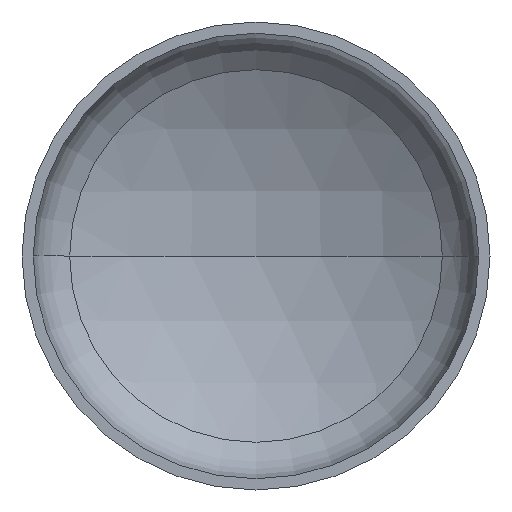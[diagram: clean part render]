
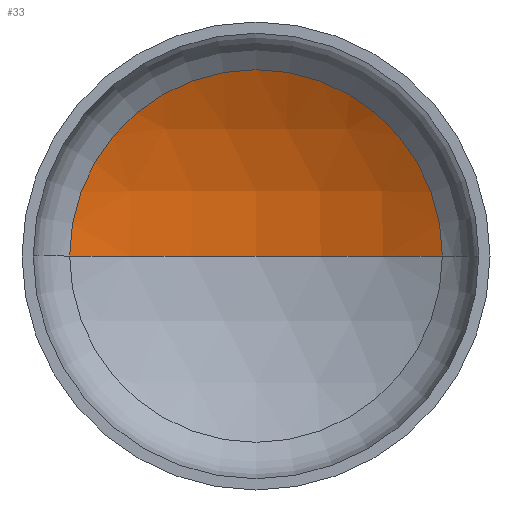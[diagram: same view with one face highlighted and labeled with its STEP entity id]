
A CAD part, front view. The second image highlights one B-rep face of the part: STEP entity #33.
In plain terms, the highlighted spherical face has radius 1600 mm.
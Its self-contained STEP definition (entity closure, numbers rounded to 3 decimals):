
#13 = EDGE_LOOP ( 'NONE', ( #45, #64, #81 ) ) ;
#14 = VERTEX_POINT ( 'NONE', #244 ) ;
#27 = VERTEX_POINT ( 'NONE', #240 ) ;
#31 = DIRECTION ( 'NONE',  ( 0., 0., 1. ) ) ;
#33 = ADVANCED_FACE ( 'NONE', ( #215 ), #278, .F. ) ;
#45 = ORIENTED_EDGE ( 'NONE', *, *, #335, .F. ) ;
#57 = DIRECTION ( 'NONE',  ( -1., 0., 0. ) ) ;
#64 = ORIENTED_EDGE ( 'NONE', *, *, #354, .T. ) ;
#73 = CARTESIAN_POINT ( 'NONE',  ( 0., -968.899, 0. ) ) ;
#81 = ORIENTED_EDGE ( 'NONE', *, *, #372, .T. ) ;
#87 = VERTEX_POINT ( 'NONE', #305 ) ;
#90 = DIRECTION ( 'NONE',  ( 0., 0., -1. ) ) ;
#96 = DIRECTION ( 'NONE',  ( 0., -1., 0. ) ) ;
#115 = CIRCLE ( 'NONE', #265, 1600. ) ;
#130 = DIRECTION ( 'NONE',  ( 1., 0., 0. ) ) ;
#146 = CARTESIAN_POINT ( 'NONE',  ( 0., -968.899, 0. ) ) ;
#211 = CIRCLE ( 'NONE', #322, 796.279 ) ;
#215 = FACE_OUTER_BOUND ( 'NONE', #13, .T. ) ;
#218 = DIRECTION ( 'NONE',  ( -1., 0., 0. ) ) ;
#219 = AXIS2_PLACEMENT_3D ( 'NONE', #232, #222, #218 ) ;
#222 = DIRECTION ( 'NONE',  ( 0., 0., -1. ) ) ;
#232 = CARTESIAN_POINT ( 'NONE',  ( 0., -968.899, 0. ) ) ;
#240 = CARTESIAN_POINT ( 'NONE',  ( -796.279, 418.883, 0. ) ) ;
#244 = CARTESIAN_POINT ( 'NONE',  ( 0., 631.101, 0. ) ) ;
#249 = AXIS2_PLACEMENT_3D ( 'NONE', #146, #31, #130 ) ;
#265 = AXIS2_PLACEMENT_3D ( 'NONE', #73, #90, #57 ) ;
#278 = SPHERICAL_SURFACE ( 'NONE', #219, 1600. ) ;
#293 = CARTESIAN_POINT ( 'NONE',  ( 0., 418.883, 0. ) ) ;
#305 = CARTESIAN_POINT ( 'NONE',  ( 796.279, 418.883, 0. ) ) ;
#320 = DIRECTION ( 'NONE',  ( 1., 0., 0. ) ) ;
#322 = AXIS2_PLACEMENT_3D ( 'NONE', #293, #96, #320 ) ;
#335 = EDGE_CURVE ( 'NONE', #14, #27, #359, .T. ) ;
#354 = EDGE_CURVE ( 'NONE', #14, #87, #115, .T. ) ;
#359 = CIRCLE ( 'NONE', #249, 1600. ) ;
#372 = EDGE_CURVE ( 'NONE', #87, #27, #211, .T. ) ;
